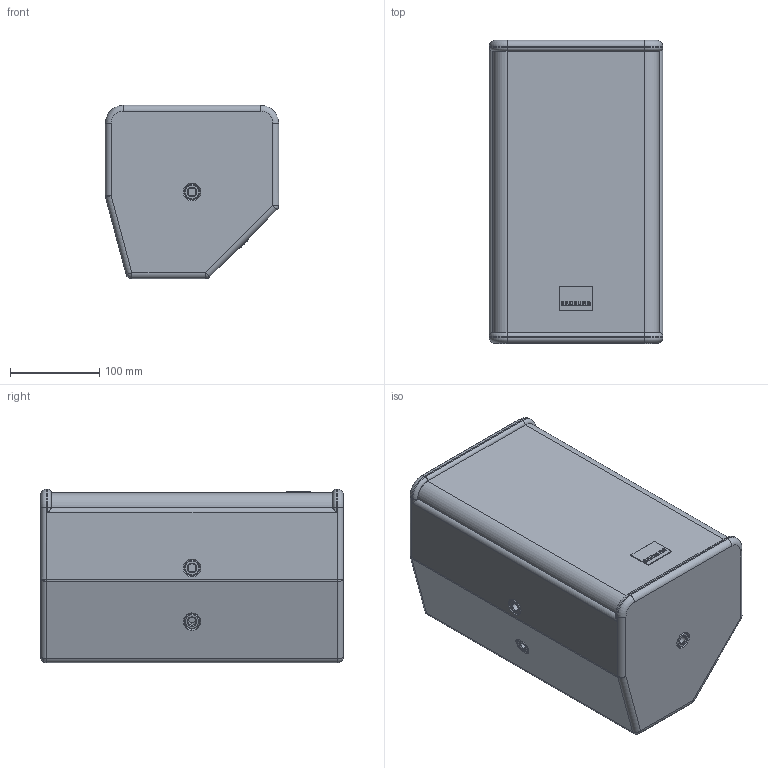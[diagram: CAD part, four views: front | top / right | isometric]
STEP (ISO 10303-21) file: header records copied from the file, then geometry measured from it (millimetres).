
FILE_DESCRIPTION (( 'STEP AP203' ), '1' );
FILE_NAME ('Seeburg_TSNano.STEP', '2012-10-17T12:00:08', ( 'Fabian' ), ( '' ), 'SwSTEP 2.0', 'SolidWorks 2009', '' );
FILE_SCHEMA (( 'CONFIG_CONTROL_DESIGN' ));
Length unit declared in the file: millimetre
Products named in the file (2): TSNano; Seeburg_TSNano
Assembly tree (1 placements, depth 2):
  Seeburg_TSNano
    TSNano
Bounding box: 194 x 339 x 194 mm (x, y, z)
Volume: 4361954.6 mm3; surface area: 659558.3 mm2
Topology: 18 solids, 18 shells, 379 faces, 895 edges, 566 vertices
Faces by surface type: cylinder 168, plane 135, cone 57, sphere 11, torus 8
Entity records: 11331 total; most frequent: CARTESIAN_POINT 2090, DIRECTION 2050, ORIENTED_EDGE 1782, EDGE_CURVE 891, AXIS2_PLACEMENT_3D 788, VERTEX_POINT 564, VECTOR 474, LINE 474
